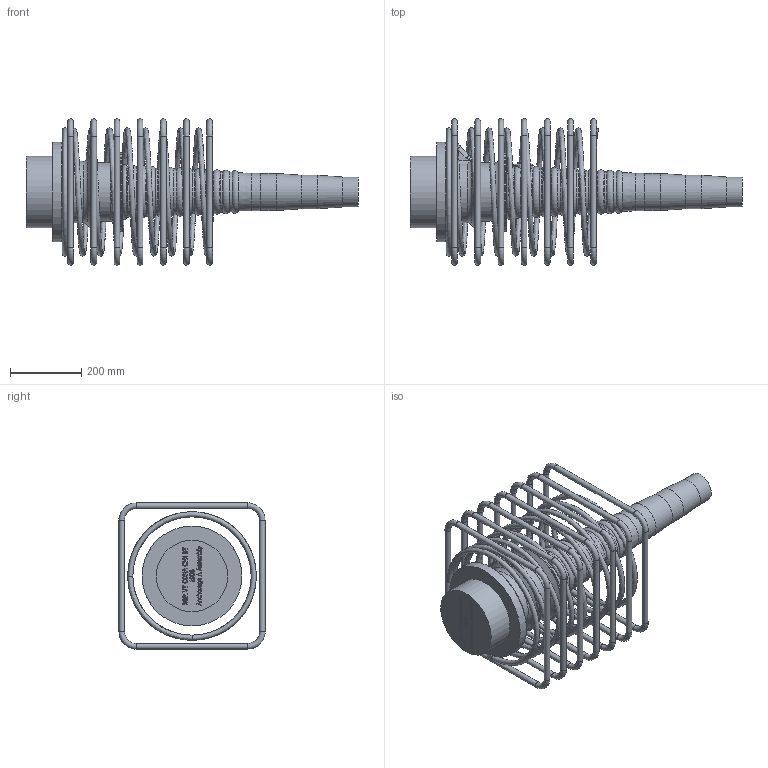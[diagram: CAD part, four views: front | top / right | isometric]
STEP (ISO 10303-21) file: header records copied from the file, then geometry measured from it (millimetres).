
FILE_DESCRIPTION(/* description */ (''),/* implementation_level */ '2;1');
FILE_NAME(/* name */ 'Z:\04 Publications\05 Give-out\BBR\6_3D_Models\BBR VT CONA CMI\BBR VT CONA CMI BT\01906\BBR VT CONA CMI BT 1906_Anchorage A Assembly_CS-34,28.stp',/* time_stamp */ '2017-05-05T09:22:43+02:00',/* author */ ('IP'),/* organization */ (''),/* preprocessor_version */ 'ST-DEVELOPER v16.1',/* originating_system */ 'Autodesk Inventor 2016',/* authorisation */ '');
FILE_SCHEMA (('AUTOMOTIVE_DESIGN { 1 0 10303 214 3 1 1 }'));
Length unit declared in the file: millimetre
Products named in the file (1): BBR VT CONA CMI BT 1906_Anchorage A Assembly_CS-34,28
Bounding box: 931.1 x 410 x 410 mm (x, y, z)
Volume: 18841821.7 mm3; surface area: 1536320.7 mm2
Topology: 9 solids, 10 shells, 796 faces, 2041 edges, 1308 vertices
Faces by surface type: plane 323, bspline 317, torus 84, cylinder 43, cone 19, sphere 10
Full cylindrical faces by diameter (mm): 16 x28, 34 x1, 57 x1, 84 x1, 94 x1, 104 x1, 164 x1, 200 x1, 218 x1, 223.017 x1, 280 x1
Entity records: 30275 total; most frequent: CARTESIAN_POINT 12791, ORIENTED_EDGE 3810, DIRECTION 2410, EDGE_CURVE 1905, VERTEX_POINT 1299, LINE 1060, VECTOR 1060, EDGE_LOOP 982
